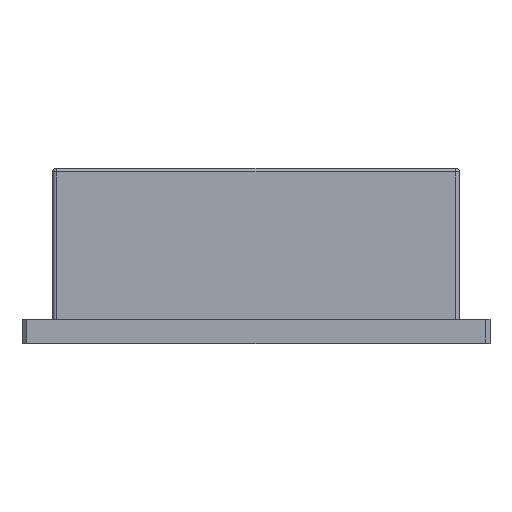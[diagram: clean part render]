
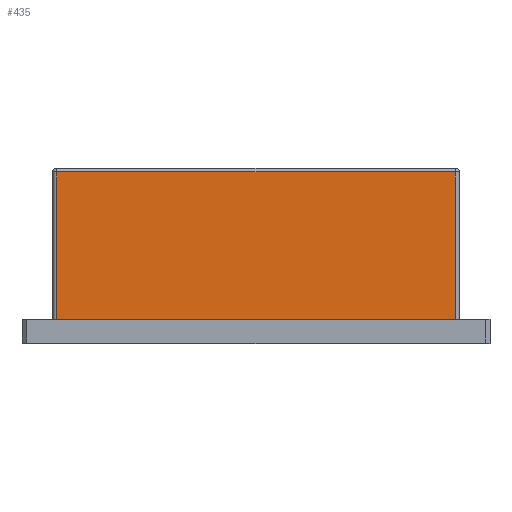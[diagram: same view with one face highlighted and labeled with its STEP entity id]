
A CAD part, top view. The second image highlights one B-rep face of the part: STEP entity #435.
In plain terms, the highlighted planar face has unit normal (0, 0, 1).
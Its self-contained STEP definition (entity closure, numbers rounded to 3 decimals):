
#128 = VECTOR ( 'NONE', #869, 1000. ) ;
#155 = DIRECTION ( 'NONE',  ( 1., 0., 0. ) ) ;
#394 = DIRECTION ( 'NONE',  ( -1., 0., 0. ) ) ;
#435 = ADVANCED_FACE ( 'NONE', ( #6025 ), #2090, .F. ) ;
#673 = EDGE_CURVE ( 'NONE', #1174, #1744, #1206, .T. ) ;
#770 = CARTESIAN_POINT ( 'NONE',  ( -42.2, 31.2, 41. ) ) ;
#869 = DIRECTION ( 'NONE',  ( 0., 1., 0. ) ) ;
#902 = ORIENTED_EDGE ( 'NONE', *, *, #5493, .T. ) ;
#1135 = CARTESIAN_POINT ( 'NONE',  ( -43., 32., 41. ) ) ;
#1160 = DIRECTION ( 'NONE',  ( 0., 0., -1. ) ) ;
#1174 = VERTEX_POINT ( 'NONE', #1848 ) ;
#1206 = LINE ( 'NONE', #5338, #1279 ) ;
#1279 = VECTOR ( 'NONE', #394, 1000. ) ;
#1744 = VERTEX_POINT ( 'NONE', #770 ) ;
#1796 = LINE ( 'NONE', #6016, #2577 ) ;
#1848 = CARTESIAN_POINT ( 'NONE',  ( 42.2, 31.2, 41. ) ) ;
#1892 = CARTESIAN_POINT ( 'NONE',  ( -42.2, 32., 41. ) ) ;
#2090 = PLANE ( 'NONE',  #4484 ) ;
#2226 = EDGE_LOOP ( 'NONE', ( #4013, #902, #4445, #5727 ) ) ;
#2577 = VECTOR ( 'NONE', #155, 1000. ) ;
#2578 = CARTESIAN_POINT ( 'NONE',  ( -42.2, 0., 41. ) ) ;
#2980 = LINE ( 'NONE', #1892, #5432 ) ;
#3312 = EDGE_CURVE ( 'NONE', #4873, #5429, #1796, .T. ) ;
#3769 = EDGE_CURVE ( 'NONE', #1744, #4873, #2980, .T. ) ;
#4013 = ORIENTED_EDGE ( 'NONE', *, *, #3312, .T. ) ;
#4445 = ORIENTED_EDGE ( 'NONE', *, *, #673, .T. ) ;
#4484 = AXIS2_PLACEMENT_3D ( 'NONE', #1135, #1160, #5578 ) ;
#4873 = VERTEX_POINT ( 'NONE', #2578 ) ;
#4875 = DIRECTION ( 'NONE',  ( 0., -1., 0. ) ) ;
#5338 = CARTESIAN_POINT ( 'NONE',  ( -43., 31.2, 41. ) ) ;
#5429 = VERTEX_POINT ( 'NONE', #6138 ) ;
#5432 = VECTOR ( 'NONE', #4875, 1000. ) ;
#5454 = LINE ( 'NONE', #6262, #128 ) ;
#5493 = EDGE_CURVE ( 'NONE', #5429, #1174, #5454, .T. ) ;
#5578 = DIRECTION ( 'NONE',  ( -1., 0., 0. ) ) ;
#5727 = ORIENTED_EDGE ( 'NONE', *, *, #3769, .T. ) ;
#6016 = CARTESIAN_POINT ( 'NONE',  ( -43., 0., 41. ) ) ;
#6025 = FACE_OUTER_BOUND ( 'NONE', #2226, .T. ) ;
#6138 = CARTESIAN_POINT ( 'NONE',  ( 42.2, 0., 41. ) ) ;
#6262 = CARTESIAN_POINT ( 'NONE',  ( 42.2, 32., 41. ) ) ;
